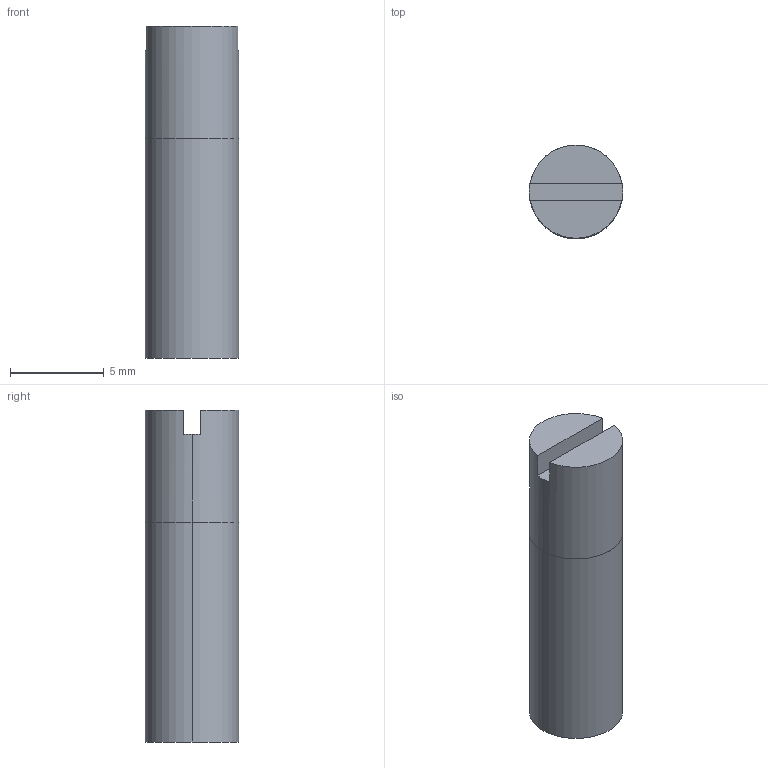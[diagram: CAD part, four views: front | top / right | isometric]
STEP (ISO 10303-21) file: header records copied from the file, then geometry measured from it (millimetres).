
FILE_DESCRIPTION (( 'STEP AP203' ), '1' );
FILE_NAME ('導柱.step', '2026-06-05T03:32:55', ( '' ), ( '' ), 'SwSTEP 2.0', 'SolidWorks 2024', '' );
FILE_SCHEMA (( 'CONFIG_CONTROL_DESIGN' ));
Length unit declared in the file: millimetre
Products named in the file (1): 導柱
Bounding box: 5 x 5 x 17.75 mm (x, y, z)
Volume: 341.8 mm3; surface area: 328.1 mm2
Topology: 1 solids, 1 shells, 11 faces, 24 edges, 16 vertices
Faces by surface type: plane 7, cylinder 4
Entity records: 387 total; most frequent: DIRECTION 60, CARTESIAN_POINT 52, ORIENTED_EDGE 48, EDGE_CURVE 24, AXIS2_PLACEMENT_3D 24, VERTEX_POINT 16, VECTOR 12, CIRCLE 12
